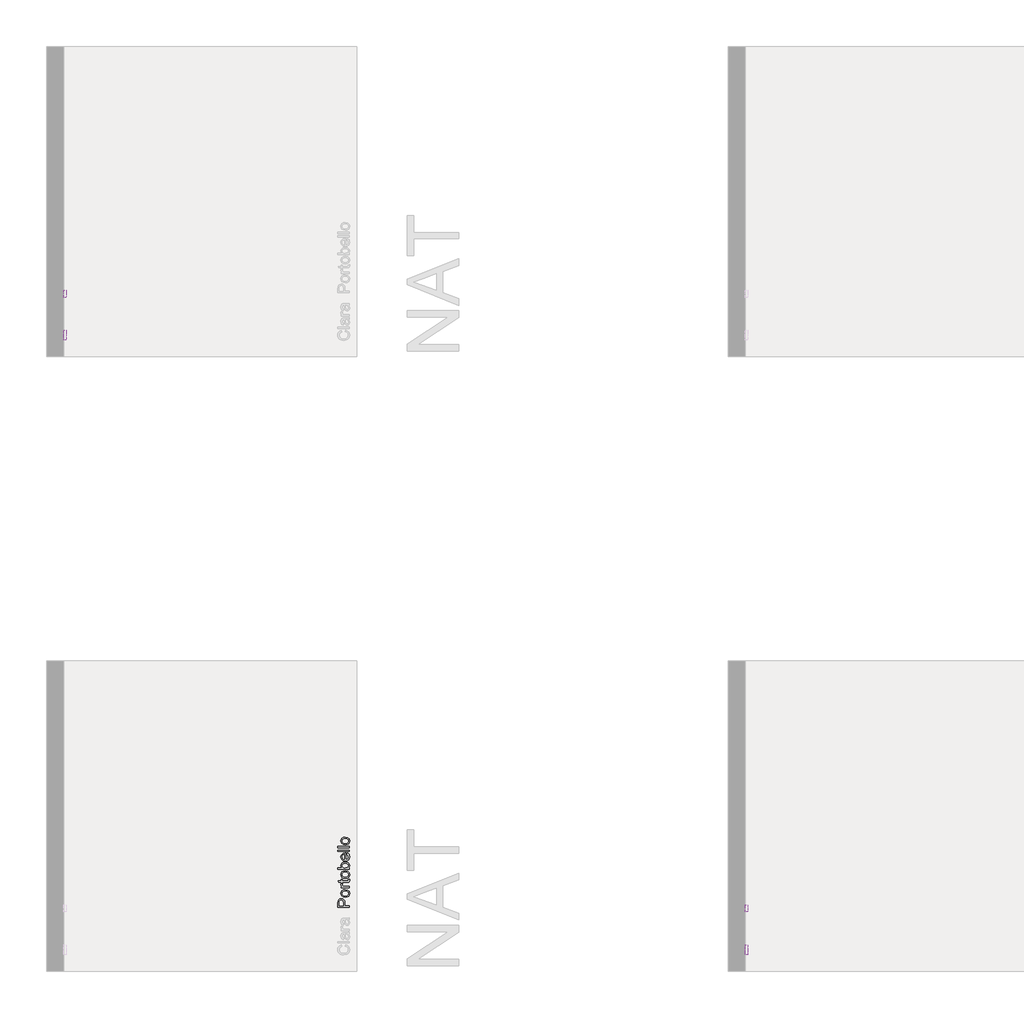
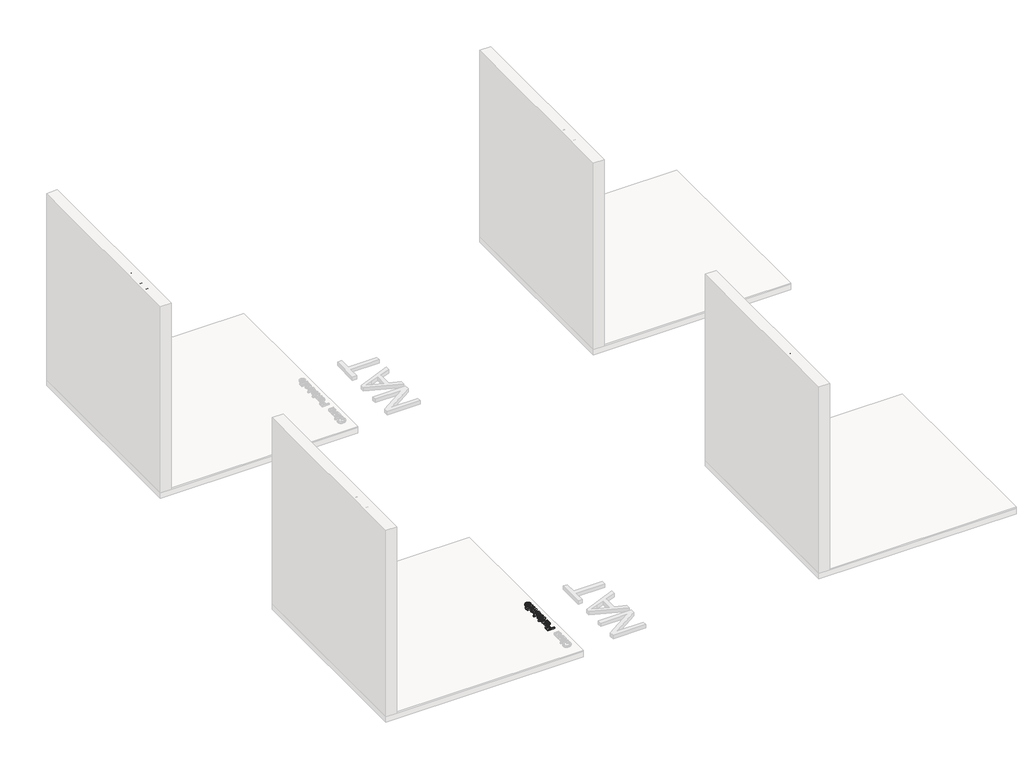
# One storey, part 3 of 6: 5 proxies.
"""IFC4 building model written with IfcOpenShell, lengths in millimetres."""

import ifcopenshell
import ifcopenshell.guid

model = None  # the IFC model being written
_history = None  # IfcOwnerHistory: only IFC2X3 demands one
_inside = {}  # id of a spatial element -> (the spatial element, [elements in it])
_under = {}  # id of a project, library or spatial element -> (it, [spatial elements below it])
_declared = {}  # id of a project -> (the project, [libraries it declares])
_typed = {}  # id of a type object -> (the type object, [elements of that type])
_made_of = {}  # id of a material, layer set ... -> (it, [elements and type objects made of it])


def new_model(schema):
    """Start an empty IFC model of exactly this schema.

    Asked for "IFC4X3", IfcOpenShell would pick the latest addendum, in which some entities
    have other attributes; the version numbers below select the first issue.
    IFC2X3 requires an IfcOwnerHistory on every rooted entity: one is made here for all.
    """
    global model, _history
    if schema == "IFC4X3":
        model = ifcopenshell.file(schema_version=(4, 3, 0, 0))
    else:
        model = ifcopenshell.file(schema=schema)
    _inside.clear()
    _under.clear()
    _declared.clear()
    _typed.clear()
    _made_of.clear()
    _history = None
    if model.schema == "IFC2X3":
        org = make("IfcOrganization", Name="unknown")
        user = make(
            "IfcPersonAndOrganization",
            ThePerson=make("IfcPerson", FamilyName="unknown"),
            TheOrganization=org,
        )
        app = make(
            "IfcApplication",
            ApplicationDeveloper=org,
            Version="unknown",
            ApplicationFullName="unknown",
            ApplicationIdentifier="unknown",
        )
        _history = make(
            "IfcOwnerHistory",
            OwningUser=user,
            OwningApplication=app,
            ChangeAction="ADDED",
            CreationDate=0,
        )
    return model


def make(cls, **values):
    """One entity of the class cls with the attributes given. An attribute that is None is left unset."""
    return model.create_entity(
        cls, **{name: value for name, value in values.items() if value is not None}
    )


def rooted(cls, **values):
    """An entity with a GlobalId (a new one), such as an element, a storey or a relation."""
    return make(cls, GlobalId=ifcopenshell.guid.new(), OwnerHistory=_history, **values)


def si_unit(unit_type, name, prefix=None):
    """IfcSIUnit, for example si_unit("LENGTHUNIT", "METRE", prefix="MILLI")."""
    return make("IfcSIUnit", UnitType=unit_type, Prefix=prefix, Name=name)


def assignment(units):
    """IfcUnitAssignment: the units of a project."""
    return None if units is None else make("IfcUnitAssignment", Units=units)


def point(xyz):
    """IfcCartesianPoint."""
    return None if xyz is None else make("IfcCartesianPoint", Coordinates=xyz)


def direction(xyz):
    """IfcDirection."""
    return None if xyz is None else make("IfcDirection", DirectionRatios=xyz)


def frame(location, z_axis=None, x_axis=None):
    """IfcAxis2Placement3D, a coordinate frame: its origin and axes. An axis left out is left unset."""
    return make(
        "IfcAxis2Placement3D",
        Location=point(location),
        Axis=direction(z_axis),
        RefDirection=direction(x_axis),
    )


def origin():
    """The frame at (0, 0, 0) with its axes left unset."""
    return frame((0.0, 0.0, 0.0))


def place(relative_to, where):
    """IfcLocalPlacement: puts the frame where relative to a parent placement (None: the world)."""
    return make(
        "IfcLocalPlacement", PlacementRelTo=relative_to, RelativePlacement=where
    )


def context(
    kind, dimensions, precision=None, world=None, true_north=None, identifier=None
):
    """IfcGeometricRepresentationContext, for example the 3D "Model" context."""
    return make(
        "IfcGeometricRepresentationContext",
        ContextIdentifier=identifier,
        ContextType=kind,
        CoordinateSpaceDimension=dimensions,
        Precision=precision,
        WorldCoordinateSystem=world,
        TrueNorth=true_north,
    )


def project(units=None, contexts=None):
    """IfcProject with its units and contexts."""
    return rooted(
        "IfcProject",
        Name="project",
        RepresentationContexts=contexts,
        UnitsInContext=assignment(units),
    )


def spatial(cls, under=None, at=None, **own):
    """A site, building, storey or space (cls), placed at a placement, below another one or the project."""
    s = rooted(cls, ObjectPlacement=at, **own)
    if under is not None:
        _under.setdefault(under.id(), (under, []))[1].append(s)
    return s


def polyline(points):
    """IfcPolyline through the points."""
    return make("IfcPolyline", Points=[point(p) for p in points])


def outline(outer, holes=None, kind="AREA"):
    """IfcArbitraryClosedProfileDef: a profile drawn as a closed curve; with holes, ...WithVoids."""
    if holes is None:
        return make("IfcArbitraryClosedProfileDef", ProfileType=kind, OuterCurve=outer)
    return make(
        "IfcArbitraryProfileDefWithVoids",
        ProfileType=kind,
        OuterCurve=outer,
        InnerCurves=holes,
    )


def extrude(swept, where, along, depth):
    """IfcExtrudedAreaSolid: the profile swept, set in the frame where, extruded along a direction by depth."""
    return make(
        "IfcExtrudedAreaSolid",
        SweptArea=swept,
        Position=where,
        ExtrudedDirection=direction(along),
        Depth=depth,
    )


def shape(context_of_items, identifier, shape_type, items):
    """IfcShapeRepresentation: the items that make up one representation, for example the "Body"."""
    return make(
        "IfcShapeRepresentation",
        ContextOfItems=context_of_items,
        RepresentationIdentifier=identifier,
        RepresentationType=shape_type,
        Items=items,
    )


def made_of(thing, what):
    """Note that an element or type object is made of a material, layer set ...; save() writes the relation."""
    if what is not None:
        _made_of.setdefault(what.id(), (what, []))[1].append(thing)
    return thing


def element(
    cls,
    number,
    at=None,
    inside=None,
    cuts=None,
    type_object=None,
    material=None,
    context=None,
    identifier="Body",
    shape_type=None,
    held_by="IfcProductDefinitionShape",
    body=None,
    shapes=None,
    **own,
):
    """One element of the class cls, such as IfcWall. Its Tag is "e" and its number.

    at: its placement. inside: the storey or other place that contains it. cuts: it is an
    opening in that element (IfcRelVoidsElement). A single representation is given by context,
    identifier, shape_type and body (its items); several are given by shapes. held_by: the class
    of the entity that holds the representations. save() writes the other relations.
    """
    e = rooted(cls, Tag="e%d" % number, ObjectPlacement=at, **own)
    if body is not None:
        shapes = [shape(context, identifier, shape_type, body)]
    if shapes is not None:
        e.Representation = make(held_by, Representations=shapes)
    if inside is not None:
        _inside.setdefault(inside.id(), (inside, []))[1].append(e)
    if cuts is not None:
        rooted(
            "IfcRelVoidsElement", RelatingBuildingElement=cuts, RelatedOpeningElement=e
        )
    if type_object is not None:
        _typed.setdefault(type_object.id(), (type_object, []))[1].append(e)
    return made_of(e, material)


def aggregate(whole, parts):
    """IfcRelAggregates: a whole, such as a stair, and the parts it consists of."""
    return rooted("IfcRelAggregates", RelatingObject=whole, RelatedObjects=parts)


def save(model, path):
    """Write the relations noted so far, then the file.

    IfcRelAggregates (storeys below a building ...), IfcRelContainedInSpatialStructure (elements
    in a storey), IfcRelDefinesByType, IfcRelAssociatesMaterial and IfcRelDeclares: one each for
    every whole, place, type object, material and project.
    """
    for whole, parts in _under.values():
        aggregate(whole, parts)
    for where, things in _inside.values():
        rooted(
            "IfcRelContainedInSpatialStructure",
            RelatedElements=things,
            RelatingStructure=where,
        )
    for kind, things in _typed.values():
        rooted("IfcRelDefinesByType", RelatedObjects=things, RelatingType=kind)
    for what, things in _made_of.values():
        rooted("IfcRelAssociatesMaterial", RelatedObjects=things, RelatingMaterial=what)
    for by, libraries in _declared.values():
        rooted("IfcRelDeclares", RelatingContext=by, RelatedDefinitions=libraries)
    model.write(path)


model = new_model("IFC4")

# Units and contexts
model_context = context("Model", 3, world=origin())
ifc_project = project(units=[si_unit("LENGTHUNIT", "METRE", prefix="MILLI")], contexts=[model_context])

# Site, building, storey
site = spatial("IfcSite", under=ifc_project)
building = spatial("IfcBuilding", under=site)
storey = spatial("IfcBuildingStorey", under=building, Name="PORTOBELLO - SHOWROOM", Elevation=0.0)

# Proxies
placement = place(None, origin())
element("IfcBuildingElementProxy", 1, Name="10mm Arial", ObjectType="10mm Arial", at=placement, inside=storey, context=model_context, shape_type="SweptSolid", body=[
    extrude(outline(polyline([(-7152.1748639, 2563.7375666), (-7139.6178251, 2560.5002051), (-7145.4119666, 2545.8676987), (-7154.5047832, 2535.1776611), (-7166.4486853, 2528.6385586), (-7180.7960831, 2526.4588578), (-7195.3611445, 2528.1081954), (-7206.9279675, 2533.0562082), (-7215.7939236, 2541.131218), (-7222.256384, 2552.1615465), (-7227.5170965, 2579.0169322), (-7226.0302401, 2593.664767), (-7221.5696709, 2606.3137762), (-7214.3683809, 2616.5623555), (-7204.6593619, 2624.0089002), (-7193.1446554, 2628.5430458), (-7180.526303, 2630.0544276), (-7166.7583193, 2628.0985217), (-7155.3754373, 2622.2308039), (-7146.7332761, 2612.8130248), (-7141.187455, 2600.2069351), (-7153.7444938, 2597.2148282), (-7164.0451896, 2612.6536093), (-7181.0168123, 2617.4973889), (-7200.6617109, 2612.1263117), (-7211.7594844, 2597.7053375), (-7214.9600577, 2579.0414576), (-7211.1708732, 2557.4099963), (-7199.3741239, 2543.589896), (-7182.0468819, 2539.0158966), (-7171.5653107, 2540.5732637), (-7162.831179, 2545.245365), (-7156.2368943, 2552.9831497), (-7152.1748639, 2563.7375666)])), frame((150642.4628922, 0.0, 0.0), z_axis=(1.0, 0.0, 0.0), x_axis=(0.0, 1.0, 0.0)), (0.0, 0.0, 1.0), 20.0),
    extrude(outline(polyline([(150662.4628922, -7111.3644879), (150662.4628922, -7123.9215267), (150642.4628922, -7123.9215267), (150642.4628922, -7111.3644879), (150662.4628922, -7111.3644879)])), frame((0.0, 0.0, 2528.0284876), z_axis=(0.0, 0.0, 1.0), x_axis=(1.0, 0.0, 0.0)), (0.0, 0.0, 1.0), 100.4563101),
    extrude(outline(polyline([(-7045.4400344, 2537.4462667), (-7057.6169284, 2528.9359299), (-7071.0691467, 2526.4588578), (-7081.5629806, 2527.9487799), (-7089.3038309, 2532.4185461), (-7094.0770998, 2539.2059689), (-7095.6681894, 2547.6488607), (-7093.2646937, 2557.5816746), (-7086.9493862, 2564.7921617), (-7078.1570065, 2568.91244), (-7067.2922249, 2570.800901), (-7045.5136108, 2575.117383), (-7045.4400344, 2577.9132862), (-7048.8981251, 2587.1839125), (-7062.7795391, 2590.8136815), (-7075.4837306, 2588.3979231), (-7081.5415208, 2579.8262726), (-7094.0985596, 2581.3959024), (-7088.6661688, 2593.6586356), (-7077.7278108, 2600.8445972), (-7061.1608583, 2603.3707203), (-7045.9428064, 2601.1389028), (-7037.3466305, 2595.5348338), (-7033.4961323, 2587.0122342), (-7032.8829956, 2576.0248253), (-7032.8829956, 2560.4021032), (-7032.2453335, 2538.5867009), (-7029.7437359, 2528.0284876), (-7042.3007747, 2528.0284876), (-7045.4400344, 2537.4462667)]), holes=[polyline([(-7045.4400344, 2562.5603443), (-7065.6980696, 2558.709846), (-7076.5015375, 2556.6742323), (-7081.394368, 2553.3632944), (-7083.1111507, 2548.5317775), (-7079.3710171, 2541.7382233), (-7068.3958709, 2539.0158966), (-7055.6916793, 2542.0202662), (-7047.5001735, 2549.292067), (-7045.5136108, 2559.0041516), (-7045.4400344, 2562.5603443)])]), frame((150642.4628922, 0.0, 0.0), z_axis=(1.0, 0.0, 0.0), x_axis=(0.0, 1.0, 0.0)), (0.0, 0.0, 1.0), 20.0),
    extrude(outline(polyline([(-7015.6170673, 2528.0284876), (-7015.6170673, 2601.8010904), (-7004.6296584, 2601.8010904), (-7004.6296584, 2590.8872579), (-6996.8305601, 2600.9426991), (-6988.9824108, 2603.3707203), (-6976.3763211, 2599.4956966), (-6980.5701759, 2588.2385075), (-6989.3993438, 2590.8136815), (-6996.4994663, 2588.3366094), (-7001.0244148, 2581.4694788), (-7003.0600285, 2566.8032499), (-7003.0600285, 2528.0284876), (-7015.6170673, 2528.0284876)])), frame((150642.4628922, 0.0, 0.0), z_axis=(1.0, 0.0, 0.0), x_axis=(0.0, 1.0, 0.0)), (0.0, 0.0, 1.0), 20.0),
    extrude(outline(polyline([(-6921.4392765, 2537.4462667), (-6933.6161706, 2528.9359299), (-6947.0683889, 2526.4588578), (-6957.5622228, 2527.9487799), (-6965.3030731, 2532.4185461), (-6970.076342, 2539.2059689), (-6971.6674316, 2547.6488607), (-6969.2639359, 2557.5816746), (-6962.9486283, 2564.7921617), (-6954.1562486, 2568.91244), (-6943.291467, 2570.800901), (-6921.5128529, 2575.117383), (-6921.4392765, 2577.9132862), (-6924.8973673, 2587.1839125), (-6938.7787812, 2590.8136815), (-6951.4829728, 2588.3979231), (-6957.540763, 2579.8262726), (-6970.0978018, 2581.3959024), (-6964.665411, 2593.6586356), (-6953.727053, 2600.8445972), (-6937.1601005, 2603.3707203), (-6921.9420486, 2601.1389028), (-6913.3458726, 2595.5348338), (-6909.4953744, 2587.0122342), (-6908.8822378, 2576.0248253), (-6908.8822378, 2560.4021032), (-6908.2445756, 2538.5867009), (-6905.7429781, 2528.0284876), (-6918.3000168, 2528.0284876), (-6921.4392765, 2537.4462667)]), holes=[polyline([(-6921.4392765, 2562.5603443), (-6941.6973117, 2558.709846), (-6952.5007797, 2556.6742323), (-6957.3936102, 2553.3632944), (-6959.1103928, 2548.5317775), (-6955.3702592, 2541.7382233), (-6944.395113, 2539.0158966), (-6931.6909215, 2542.0202662), (-6923.4994157, 2549.292067), (-6921.5128529, 2559.0041516), (-6921.4392765, 2562.5603443)])]), frame((150642.4628922, 0.0, 0.0), z_axis=(1.0, 0.0, 0.0), x_axis=(0.0, 1.0, 0.0)), (0.0, 0.0, 1.0), 20.0),
])
element("IfcBuildingElementProxy", 2, Name="10mm Arial", ObjectType="10mm Arial", at=placement, inside=storey, context=model_context, shape_type="SweptSolid", body=[
    extrude(outline(polyline([(147198.3895945, -6814.8655286), (147097.9332844, -6814.8655286), (147097.9332844, -6777.6358707), (147098.8897775, -6762.6262853), (147103.5864043, -6750.4248658), (147113.298489, -6742.5154029), (147126.995962, -6739.523296), (147138.8356309, -6741.5435813), (147148.7009997, -6747.6044372), (147155.3596638, -6758.9382683), (147157.5792185, -6776.7774794), (147157.5792185, -6802.3084899), (147198.3895945, -6802.3084899), (147198.3895945, -6814.8655286)]), holes=[polyline([(147145.0221797, -6802.3084899), (147145.0221797, -6776.0417154), (147140.4113921, -6757.5495138), (147134.8625053, -6753.4476295), (147127.4374204, -6752.0803348), (147117.0386226, -6755.3054336), (147111.3487144, -6763.7789822), (147110.4903231, -6776.336021), (147110.4903231, -6802.3084899), (147145.0221797, -6802.3084899)])]), frame((0.0, 0.0, 17.0), z_axis=(0.0, 0.0, 1.0), x_axis=(1.0, 0.0, 0.0)), (0.0, 0.0, 1.0), 20.0),
    extrude(outline(polyline([(147161.5032931, -6726.9662573), (147143.7161987, -6724.2500619), (147131.2143422, -6716.1014757), (147125.089107, -6706.0337717), (147123.0473619, -6693.979505), (147125.533631, -6680.7878698), (147132.9924385, -6670.2511163), (147144.8351731, -6663.3441319), (147160.4732235, -6661.0418037), (147182.8159234, -6665.1130311), (147195.4588013, -6676.9710941), (147199.9592243, -6693.979505), (147197.4821522, -6707.3305558), (147190.0509359, -6717.8550465), (147177.959881, -6724.6884546), (147161.5032931, -6726.9662573)]), holes=[polyline([(147161.4787677, -6714.4092185), (147172.8432556, -6712.9560846), (147180.9397252, -6708.596683), (147185.7865705, -6702.0361207), (147187.4021856, -6693.979505), (147185.7773734, -6685.9596775), (147180.902937, -6679.411378), (147172.6991685, -6675.0519764), (147161.0863602, -6673.5988425), (147150.052966, -6675.0611734), (147142.066861, -6679.4481662), (147137.2200158, -6686.0056628), (147135.6044007, -6693.979505), (147137.2138844, -6702.0361207), (147142.0423356, -6708.596683), (147150.1204111, -6712.9560846), (147161.4787677, -6714.4092185)])]), frame((0.0, 0.0, 17.0), z_axis=(0.0, 0.0, 1.0), x_axis=(1.0, 0.0, 0.0)), (0.0, 0.0, 1.0), 20.0),
    extrude(outline(polyline([(147198.3895945, -6646.9151351), (147124.6169917, -6646.9151351), (147124.6169917, -6635.9277262), (147135.5308243, -6635.9277262), (147125.4753831, -6628.1286279), (147123.0473619, -6620.2804787), (147126.9223856, -6607.674389), (147138.1795746, -6611.8682437), (147135.6044007, -6620.6974116), (147138.0814728, -6627.7975341), (147144.9486033, -6632.3224826), (147159.6148322, -6634.3580963), (147198.3895945, -6634.3580963), (147198.3895945, -6646.9151351)])), frame((0.0, 0.0, 17.0), z_axis=(0.0, 0.0, 1.0), x_axis=(1.0, 0.0, 0.0)), (0.0, 0.0, 1.0), 20.0),
    extrude(outline(polyline([(147187.9172204, -6573.1425323), (147198.7574765, -6571.5729025), (147199.9592243, -6580.9661561), (147197.8745597, -6591.4875812), (147192.4053807, -6596.736031), (147178.1560848, -6598.2566099), (147137.1740305, -6598.2566099), (147137.1740305, -6607.674389), (147126.9223856, -6607.674389), (147124.6169917, -6607.674389), (147124.6169917, -6598.2566099), (147106.6888758, -6598.2566099), (147099.3067105, -6585.6995711), (147124.6169917, -6585.6995711), (147124.6169917, -6573.1425323), (147137.1740305, -6573.1425323), (147137.1740305, -6585.6995711), (147177.7882028, -6585.6995711), (147184.2629259, -6585.0373835), (147186.556057, -6582.8914052), (147187.4021856, -6578.6117113), (147187.9172204, -6573.1425323)])), frame((0.0, 0.0, 17.0), z_axis=(0.0, 0.0, 1.0), x_axis=(1.0, 0.0, 0.0)), (0.0, 0.0, 1.0), 20.0),
    extrude(outline(polyline([(147161.5032931, -6563.7247533), (147143.7161987, -6561.0085579), (147131.2143422, -6552.8599717), (147125.089107, -6542.7922677), (147123.0473619, -6530.738001), (147125.533631, -6517.5463658), (147132.9924385, -6507.0096123), (147144.8351731, -6500.1026279), (147160.4732235, -6497.8002997), (147182.8159234, -6501.8715271), (147195.4588013, -6513.7295901), (147199.9592243, -6530.738001), (147197.4821522, -6544.0890518), (147190.0509359, -6554.6135425), (147177.959881, -6561.4469506), (147161.5032931, -6563.7247533)]), holes=[polyline([(147161.4787677, -6551.1677145), (147172.8432556, -6549.7145806), (147180.9397252, -6545.355179), (147185.7865705, -6538.7946167), (147187.4021856, -6530.738001), (147185.7773734, -6522.7181735), (147180.902937, -6516.169874), (147172.6991685, -6511.8104724), (147161.0863602, -6510.3573385), (147150.052966, -6511.8196694), (147142.066861, -6516.2066622), (147137.2200158, -6522.7641588), (147135.6044007, -6530.738001), (147137.2138844, -6538.7946167), (147142.0423356, -6545.355179), (147150.1204111, -6549.7145806), (147161.4787677, -6551.1677145)])]), frame((0.0, 0.0, 17.0), z_axis=(0.0, 0.0, 1.0), x_axis=(1.0, 0.0, 0.0)), (0.0, 0.0, 1.0), 20.0),
    extrude(outline(polyline([(147198.3895945, -6471.1165923), (147198.3895945, -6483.6736311), (147097.9332844, -6483.6736311), (147097.9332844, -6471.1165923), (147135.1874677, -6471.1165923), (147126.0823884, -6462.3242127), (147123.0473619, -6451.3981174), (147125.7819514, -6438.8165532), (147133.4706851, -6429.0554176), (147145.4268499, -6423.058941), (147160.3996471, -6420.8884373), (147177.1628034, -6423.1355831), (147189.634003, -6429.8770207), (147197.377919, -6439.7699807), (147199.9592243, -6451.4716938), (147196.6298923, -6462.6369124), (147186.6418961, -6471.1165923), (147198.3895945, -6471.1165923)]), holes=[polyline([(147160.9882583, -6471.1165923), (147178.5484922, -6467.6830271), (147185.1887622, -6461.1040707), (147187.4021856, -6452.5508143), (147185.7712421, -6445.303539), (147180.8784115, -6439.1108588), (147172.7543508, -6434.8618217), (147161.4297167, -6433.445476), (147149.9395357, -6434.8035737), (147141.9074455, -6438.8778668), (147137.1801619, -6444.877409), (147135.6044007, -6452.0112541), (147137.2353442, -6459.2585294), (147142.1281747, -6465.4512096), (147150.1050826, -6469.7002467), (147160.9882583, -6471.1165923)])]), frame((0.0, 0.0, 17.0), z_axis=(0.0, 0.0, 1.0), x_axis=(1.0, 0.0, 0.0)), (0.0, 0.0, 1.0), 20.0),
    extrude(outline(polyline([(147176.4147767, -6355.1111365), (147177.9844065, -6342.7993524), (147187.2611641, -6347.2353962), (147194.1957398, -6354.3140589), (147198.5183532, -6363.8759251), (147199.9592243, -6375.7615792), (147197.4729552, -6390.4952531), (147190.0141477, -6401.8321499), (147178.06718, -6409.0610311), (147162.1164298, -6411.4706582), (147145.629185, -6409.0365057), (147133.2990068, -6401.7340481), (147125.6102731, -6390.5504354), (147123.0473619, -6376.4728177), (147125.6041418, -6362.8335927), (147133.2744814, -6351.9350886), (147145.5801341, -6344.7889809), (147162.0428534, -6342.406945), (147165.4273677, -6342.4805214), (147165.4273677, -6398.9136194), (147174.8267527, -6396.74005), (147181.7368029, -6391.6908696), (147185.9858399, -6384.4037404), (147187.4021856, -6375.5163245), (147184.7779607, -6363.2045404), (147176.4147767, -6355.1111365)]), holes=[polyline([(147152.870329, -6398.9136194), (147152.870329, -6354.9639837), (147141.4905126, -6359.9917043), (147137.0759286, -6367.312556), (147135.6044007, -6376.5218687), (147140.3010275, -6391.9851752), (147145.7916662, -6396.8504146), (147152.870329, -6398.9136194)])]), frame((0.0, 0.0, 17.0), z_axis=(0.0, 0.0, 1.0), x_axis=(1.0, 0.0, 0.0)), (0.0, 0.0, 1.0), 20.0),
    extrude(outline(polyline([(147198.3895945, -6329.8499062), (147097.9332844, -6329.8499062), (147097.9332844, -6317.2928674), (147198.3895945, -6317.2928674), (147198.3895945, -6329.8499062)])), frame((0.0, 0.0, 17.0), z_axis=(0.0, 0.0, 1.0), x_axis=(1.0, 0.0, 0.0)), (0.0, 0.0, 1.0), 20.0),
    extrude(outline(polyline([(147198.3895945, -6298.4573093), (147097.9332844, -6298.4573093), (147097.9332844, -6285.9002705), (147198.3895945, -6285.9002705), (147198.3895945, -6298.4573093)])), frame((0.0, 0.0, 17.0), z_axis=(0.0, 0.0, 1.0), x_axis=(1.0, 0.0, 0.0)), (0.0, 0.0, 1.0), 20.0),
    extrude(outline(polyline([(147161.5032931, -6270.203972), (147143.7161987, -6267.4877766), (147131.2143422, -6259.3391905), (147125.089107, -6249.2714865), (147123.0473619, -6237.2172198), (147125.533631, -6224.0255846), (147132.9924385, -6213.4888311), (147144.8351731, -6206.5818467), (147160.4732235, -6204.2795185), (147182.8159234, -6208.3507459), (147195.4588013, -6220.2088089), (147199.9592243, -6237.2172198), (147197.4821522, -6250.5682706), (147190.0509359, -6261.0927613), (147177.959881, -6267.9261694), (147161.5032931, -6270.203972)]), holes=[polyline([(147161.4787677, -6257.6469333), (147172.8432556, -6256.1937994), (147180.9397252, -6251.8343978), (147185.7865705, -6245.2738355), (147187.4021856, -6237.2172198), (147185.7773734, -6229.1973923), (147180.902937, -6222.6490928), (147172.6991685, -6218.2896912), (147161.0863602, -6216.8365573), (147150.052966, -6218.2988882), (147142.066861, -6222.685881), (147137.2200158, -6229.2433776), (147135.6044007, -6237.2172198), (147137.2138844, -6245.2738355), (147142.0423356, -6251.8343978), (147150.1204111, -6256.1937994), (147161.4787677, -6257.6469333)])]), frame((0.0, 0.0, 17.0), z_axis=(0.0, 0.0, 1.0), x_axis=(1.0, 0.0, 0.0)), (0.0, 0.0, 1.0), 20.0),
])
element("IfcBuildingElementProxy", 3, Name="10mm Arial", ObjectType="10mm Arial", at=placement, inside=storey, context=model_context, shape_type="SweptSolid", body=[
    extrude(outline(polyline([(-1802.1748639, 2563.7375666), (-1789.6178251, 2560.5002051), (-1795.4119666, 2545.8676987), (-1804.5047832, 2535.1776611), (-1816.4486853, 2528.6385586), (-1830.7960831, 2526.4588578), (-1845.3611445, 2528.1081954), (-1856.9279675, 2533.0562082), (-1865.7939236, 2541.131218), (-1872.256384, 2552.1615465), (-1877.5170965, 2579.0169322), (-1876.0302401, 2593.664767), (-1871.5696709, 2606.3137762), (-1864.3683809, 2616.5623555), (-1854.6593619, 2624.0089002), (-1843.1446554, 2628.5430458), (-1830.526303, 2630.0544276), (-1816.7583193, 2628.0985217), (-1805.3754373, 2622.2308039), (-1796.7332761, 2612.8130248), (-1791.187455, 2600.2069351), (-1803.7444938, 2597.2148282), (-1814.0451896, 2612.6536093), (-1831.0168123, 2617.4973889), (-1850.6617109, 2612.1263117), (-1861.7594844, 2597.7053375), (-1864.9600577, 2579.0414576), (-1861.1708732, 2557.4099963), (-1849.3741239, 2543.589896), (-1832.0468819, 2539.0158966), (-1821.5653107, 2540.5732637), (-1812.831179, 2545.245365), (-1806.2368943, 2552.9831497), (-1802.1748639, 2563.7375666)])), frame((144712.4628922, 0.0, 0.0), z_axis=(1.0, 0.0, 0.0), x_axis=(0.0, 1.0, 0.0)), (0.0, 0.0, 1.0), 20.0),
    extrude(outline(polyline([(144732.4628922, -1761.3644879), (144732.4628922, -1773.9215267), (144712.4628922, -1773.9215267), (144712.4628922, -1761.3644879), (144732.4628922, -1761.3644879)])), frame((0.0, 0.0, 2528.0284876), z_axis=(0.0, 0.0, 1.0), x_axis=(1.0, 0.0, 0.0)), (0.0, 0.0, 1.0), 100.4563101),
    extrude(outline(polyline([(-1695.4400344, 2537.4462667), (-1707.6169284, 2528.9359299), (-1721.0691467, 2526.4588578), (-1731.5629806, 2527.9487799), (-1739.3038309, 2532.4185461), (-1744.0770998, 2539.2059689), (-1745.6681894, 2547.6488607), (-1743.2646937, 2557.5816746), (-1736.9493862, 2564.7921617), (-1728.1570065, 2568.91244), (-1717.2922249, 2570.800901), (-1695.5136108, 2575.117383), (-1695.4400344, 2577.9132862), (-1698.8981251, 2587.1839125), (-1712.7795391, 2590.8136815), (-1725.4837306, 2588.3979231), (-1731.5415208, 2579.8262726), (-1744.0985596, 2581.3959024), (-1738.6661688, 2593.6586356), (-1727.7278108, 2600.8445972), (-1711.1608583, 2603.3707203), (-1695.9428064, 2601.1389028), (-1687.3466305, 2595.5348338), (-1683.4961323, 2587.0122342), (-1682.8829956, 2576.0248253), (-1682.8829956, 2560.4021032), (-1682.2453335, 2538.5867009), (-1679.7437359, 2528.0284876), (-1692.3007747, 2528.0284876), (-1695.4400344, 2537.4462667)]), holes=[polyline([(-1695.4400344, 2562.5603443), (-1715.6980696, 2558.709846), (-1726.5015375, 2556.6742323), (-1731.394368, 2553.3632944), (-1733.1111507, 2548.5317775), (-1729.3710171, 2541.7382233), (-1718.3958709, 2539.0158966), (-1705.6916793, 2542.0202662), (-1697.5001735, 2549.292067), (-1695.5136108, 2559.0041516), (-1695.4400344, 2562.5603443)])]), frame((144712.4628922, 0.0, 0.0), z_axis=(1.0, 0.0, 0.0), x_axis=(0.0, 1.0, 0.0)), (0.0, 0.0, 1.0), 20.0),
    extrude(outline(polyline([(-1665.6170673, 2528.0284876), (-1665.6170673, 2601.8010904), (-1654.6296584, 2601.8010904), (-1654.6296584, 2590.8872579), (-1646.8305601, 2600.9426991), (-1638.9824108, 2603.3707203), (-1626.3763211, 2599.4956966), (-1630.5701759, 2588.2385075), (-1639.3993438, 2590.8136815), (-1646.4994663, 2588.3366094), (-1651.0244148, 2581.4694788), (-1653.0600285, 2566.8032499), (-1653.0600285, 2528.0284876), (-1665.6170673, 2528.0284876)])), frame((144712.4628922, 0.0, 0.0), z_axis=(1.0, 0.0, 0.0), x_axis=(0.0, 1.0, 0.0)), (0.0, 0.0, 1.0), 20.0),
    extrude(outline(polyline([(-1571.4392765, 2537.4462667), (-1583.6161706, 2528.9359299), (-1597.0683889, 2526.4588578), (-1607.5622228, 2527.9487799), (-1615.3030731, 2532.4185461), (-1620.076342, 2539.2059689), (-1621.6674316, 2547.6488607), (-1619.2639359, 2557.5816746), (-1612.9486283, 2564.7921617), (-1604.1562486, 2568.91244), (-1593.291467, 2570.800901), (-1571.5128529, 2575.117383), (-1571.4392765, 2577.9132862), (-1574.8973673, 2587.1839125), (-1588.7787812, 2590.8136815), (-1601.4829728, 2588.3979231), (-1607.540763, 2579.8262726), (-1620.0978018, 2581.3959024), (-1614.665411, 2593.6586356), (-1603.727053, 2600.8445972), (-1587.1601005, 2603.3707203), (-1571.9420486, 2601.1389028), (-1563.3458726, 2595.5348338), (-1559.4953744, 2587.0122342), (-1558.8822378, 2576.0248253), (-1558.8822378, 2560.4021032), (-1558.2445756, 2538.5867009), (-1555.7429781, 2528.0284876), (-1568.3000168, 2528.0284876), (-1571.4392765, 2537.4462667)]), holes=[polyline([(-1571.4392765, 2562.5603443), (-1591.6973117, 2558.709846), (-1602.5007797, 2556.6742323), (-1607.3936102, 2553.3632944), (-1609.1103928, 2548.5317775), (-1605.3702592, 2541.7382233), (-1594.395113, 2539.0158966), (-1581.6909215, 2542.0202662), (-1573.4994157, 2549.292067), (-1571.5128529, 2559.0041516), (-1571.4392765, 2562.5603443)])]), frame((144712.4628922, 0.0, 0.0), z_axis=(1.0, 0.0, 0.0), x_axis=(0.0, 1.0, 0.0)), (0.0, 0.0, 1.0), 20.0),
])
element("IfcBuildingElementProxy", 4, Name="10mm Arial Narrow", ObjectType="10mm Arial Narrow", at=placement, inside=storey, context=model_context, shape_type="SweptSolid", body=[
    extrude(outline(polyline([(-6855.6731479, 2528.0284876), (-6855.6731479, 2628.7470914), (-6824.3762632, 2628.7470914), (-6808.0805617, 2626.8687707), (-6796.6075755, 2617.3883275), (-6792.3178971, 2600.3692187), (-6794.1042055, 2588.2933931), (-6799.4631307, 2578.6669994), (-6809.2069195, 2572.365741), (-6824.1478188, 2570.2653215), (-6845.9261862, 2570.2653215), (-6845.9261862, 2528.0284876), (-6855.6731479, 2528.0284876)]), holes=[polyline([(-6845.9261862, 2581.6367767), (-6822.9548313, 2581.6367767), (-6807.0906359, 2586.1675909), (-6802.0648588, 2599.8361817), (-6804.5396732, 2610.0019581), (-6810.5173021, 2615.801908), (-6823.1832757, 2617.3756361), (-6845.9261862, 2617.3756361), (-6845.9261862, 2581.6367767)])]), frame((150642.4628922, 0.0, 0.0), z_axis=(1.0, 0.0, 0.0), x_axis=(0.0, 1.0, 0.0)), (0.0, 0.0, 1.0), 20.0),
    extrude(outline(polyline([(-6784.1954291, 2564.5795938), (-6782.2409602, 2581.1703694), (-6776.3775536, 2593.1224542), (-6767.5189869, 2600.3470088), (-6756.5790377, 2602.7551937), (-6745.7660021, 2600.3470088), (-6736.8820527, 2593.1224542), (-6730.9424979, 2581.3607397), (-6728.9626464, 2565.3410752), (-6730.9075967, 2548.1791886), (-6736.7424478, 2536.0367335), (-6745.591496, 2528.8121789), (-6756.5790377, 2526.403994), (-6767.4396659, 2528.8185246), (-6776.3140968, 2536.0621162), (-6782.225096, 2548.0205467), (-6784.1954291, 2564.5795938)]), holes=[polyline([(-6774.4484674, 2564.6049766), (-6773.1444306, 2552.0532252), (-6769.23232, 2543.1819671), (-6763.3911232, 2537.9087085), (-6756.2998279, 2536.1509557), (-6749.5797547, 2537.9245727), (-6743.8876814, 2543.2454239), (-6740.0041264, 2552.1325461), (-6738.709608, 2564.6049766), (-6740.0136449, 2577.1186539), (-6743.9257555, 2585.9772206), (-6749.7669522, 2591.2504792), (-6756.8582476, 2593.008232), (-6763.6259133, 2591.2409606), (-6769.3084681, 2585.9391465), (-6773.1634676, 2577.0710613), (-6774.4484674, 2564.6049766)])]), frame((150642.4628922, 0.0, 0.0), z_axis=(1.0, 0.0, 0.0), x_axis=(0.0, 1.0, 0.0)), (0.0, 0.0, 1.0), 20.0),
    extrude(outline(polyline([(-6657.4849276, 2536.1509557), (-6655.860434, 2526.403994), (-6663.2214206, 2526.403994), (-6671.4961849, 2528.5234505), (-6675.8112461, 2534.3234004), (-6676.9788509, 2548.9692256), (-6676.9788509, 2591.3837384), (-6685.1013189, 2591.3837384), (-6685.1013189, 2594.6327256), (-6686.7258125, 2589.7592448), (-6694.2898609, 2591.3837384), (-6700.3690206, 2589.0612202), (-6704.2398843, 2582.5759371), (-6706.2197358, 2567.1686305), (-6706.2197358, 2528.0284876), (-6715.9666975, 2528.0284876), (-6715.9666975, 2601.1307001), (-6706.2197358, 2601.1307001), (-6706.2197358, 2591.4345038), (-6699.9755885, 2600.5215149), (-6693.5791449, 2602.7551937), (-6685.1013189, 2601.1307001), (-6676.9788509, 2601.1307001), (-6676.9788509, 2617.3756361), (-6667.2318892, 2625.4981042), (-6667.2318892, 2601.1307001), (-6657.4849276, 2601.1307001), (-6657.4849276, 2591.3837384), (-6667.2318892, 2591.3837384), (-6667.2318892, 2546.7355469), (-6666.368877, 2538.7399924), (-6661.7492233, 2536.1509557), (-6657.4849276, 2536.1509557)])), frame((150642.4628922, 0.0, 0.0), z_axis=(1.0, 0.0, 0.0), x_axis=(0.0, 1.0, 0.0)), (0.0, 0.0, 1.0), 20.0),
    extrude(outline(polyline([(-6650.9869531, 2564.5795938), (-6649.0324843, 2581.1703694), (-6643.1690776, 2593.1224542), (-6634.3105109, 2600.3470088), (-6623.3705618, 2602.7551937), (-6612.5575262, 2600.3470088), (-6603.6735768, 2593.1224542), (-6597.734022, 2581.3607397), (-6595.7541704, 2565.3410752), (-6597.6991208, 2548.1791886), (-6603.5339719, 2536.0367335), (-6612.38302, 2528.8121789), (-6623.3705618, 2526.403994), (-6634.23119, 2528.8185246), (-6643.1056209, 2536.0621162), (-6649.0166201, 2548.0205467), (-6650.9869531, 2564.5795938)]), holes=[polyline([(-6641.2399915, 2564.6049766), (-6639.9359546, 2552.0532252), (-6636.023844, 2543.1819671), (-6630.1826473, 2537.9087085), (-6623.0913519, 2536.1509557), (-6616.3712788, 2537.9245727), (-6610.6792055, 2543.2454239), (-6606.7956504, 2552.1325461), (-6605.5011321, 2564.6049766), (-6606.8051689, 2577.1186539), (-6610.7172795, 2585.9772206), (-6616.5584763, 2591.2504792), (-6623.6497716, 2593.008232), (-6630.4174374, 2591.2409606), (-6636.0999922, 2585.9391465), (-6639.9549917, 2577.0710613), (-6641.2399915, 2564.6049766)])]), frame((150642.4628922, 0.0, 0.0), z_axis=(1.0, 0.0, 0.0), x_axis=(0.0, 1.0, 0.0)), (0.0, 0.0, 1.0), 20.0),
    extrude(outline(polyline([(-6573.0112599, 2528.0284876), (-6582.7582216, 2528.0284876), (-6582.7582216, 2628.7470914), (-6573.0112599, 2628.7470914), (-6573.0112599, 2593.3382073), (-6565.6121992, 2600.4199841), (-6556.4109658, 2602.7551937), (-6543.5292392, 2598.5543547), (-6534.2518577, 2585.8249243), (-6530.7744261, 2565.1380135), (-6532.7066851, 2548.6836701), (-6538.5034621, 2536.480931), (-6546.8765844, 2528.9232283), (-6556.5378794, 2526.403994), (-6565.8787177, 2529.0184134), (-6573.0112599, 2536.7855235), (-6573.0112599, 2528.0284876)]), holes=[polyline([(-6573.0112599, 2565.1380135), (-6570.9298775, 2547.8904603), (-6565.0410881, 2539.1588071), (-6556.5886448, 2536.1509557), (-6550.6459172, 2537.9404369), (-6545.4075599, 2543.3088807), (-6540.5213877, 2564.7318901), (-6545.2298809, 2586.1675909), (-6550.4745839, 2591.2980717), (-6556.7917065, 2593.008232), (-6562.7693354, 2591.2187508), (-6568.0616309, 2585.850307), (-6573.0112599, 2565.1380135)])]), frame((150642.4628922, 0.0, 0.0), z_axis=(1.0, 0.0, 0.0), x_axis=(0.0, 1.0, 0.0)), (0.0, 0.0, 1.0), 20.0),
    extrude(outline(polyline([(-6478.7906306, 2550.7713982), (-6469.0436689, 2549.1469046), (-6472.7431993, 2539.260338), (-6478.5621862, 2532.1404871), (-6486.2658395, 2527.8381173), (-6495.6193691, 2526.403994), (-6507.2129231, 2528.8185246), (-6516.3570453, 2536.0621162), (-6522.2966001, 2547.8682504), (-6524.2764516, 2563.9704087), (-6522.2870815, 2580.6373324), (-6516.3189712, 2592.8178617), (-6507.3049354, 2600.2708607), (-6496.1777887, 2602.7551937), (-6485.4948396, 2600.3565273), (-6476.7473222, 2593.1605283), (-6470.9124712, 2581.4210237), (-6468.9675208, 2565.3918407), (-6469.0436689, 2562.1428534), (-6514.52949, 2562.1428534), (-6508.5264784, 2542.6996956), (-6502.5964422, 2537.7881407), (-6495.4924555, 2536.1509557), (-6485.3139877, 2539.8060663), (-6478.7906306, 2550.7713982)]), holes=[polyline([(-6513.8695395, 2571.8898151), (-6478.7906306, 2571.8898151), (-6483.0549263, 2586.1548996), (-6488.8802589, 2591.2948989), (-6496.1016406, 2593.008232), (-6508.3107254, 2587.2971217), (-6513.8695395, 2571.8898151)])]), frame((150642.4628922, 0.0, 0.0), z_axis=(1.0, 0.0, 0.0), x_axis=(0.0, 1.0, 0.0)), (0.0, 0.0, 1.0), 20.0),
    extrude(outline(polyline([(150662.4628922, -6446.3007584), (150662.4628922, -6456.0477201), (150642.4628922, -6456.0477201), (150642.4628922, -6446.3007584), (150662.4628922, -6446.3007584)])), frame((0.0, 0.0, 2528.0284876), z_axis=(0.0, 0.0, 1.0), x_axis=(1.0, 0.0, 0.0)), (0.0, 0.0, 1.0), 100.7186038),
    extrude(outline(polyline([(150662.4628922, -6420.3088607), (150662.4628922, -6430.0558223), (150642.4628922, -6430.0558223), (150642.4628922, -6420.3088607), (150662.4628922, -6420.3088607)])), frame((0.0, 0.0, 2528.0284876), z_axis=(0.0, 0.0, 1.0), x_axis=(1.0, 0.0, 0.0)), (0.0, 0.0, 1.0), 100.7186038),
    extrude(outline(polyline([(-6408.9374054, 2564.5795938), (-6406.9829365, 2581.1703694), (-6401.1195299, 2593.1224542), (-6392.2609632, 2600.3470088), (-6381.3210141, 2602.7551937), (-6370.5079785, 2600.3470088), (-6361.624029, 2593.1224542), (-6355.6844743, 2581.3607397), (-6353.7046227, 2565.3410752), (-6355.6495731, 2548.1791886), (-6361.4844241, 2536.0367335), (-6370.3334723, 2528.8121789), (-6381.3210141, 2526.403994), (-6392.1816422, 2528.8185246), (-6401.0560731, 2536.0621162), (-6406.9670723, 2548.0205467), (-6408.9374054, 2564.5795938)]), holes=[polyline([(-6399.1904438, 2564.6049766), (-6397.8864069, 2552.0532252), (-6393.9742963, 2543.1819671), (-6388.1330996, 2537.9087085), (-6381.0418042, 2536.1509557), (-6374.321731, 2537.9245727), (-6368.6296577, 2543.2454239), (-6364.7461027, 2552.1325461), (-6363.4515844, 2564.6049766), (-6364.7556212, 2577.1186539), (-6368.6677318, 2585.9772206), (-6374.5089285, 2591.2504792), (-6381.6002239, 2593.008232), (-6388.3678897, 2591.2409606), (-6394.0504444, 2585.9391465), (-6397.9054439, 2577.0710613), (-6399.1904438, 2564.6049766)])]), frame((150642.4628922, 0.0, 0.0), z_axis=(1.0, 0.0, 0.0), x_axis=(0.0, 1.0, 0.0)), (0.0, 0.0, 1.0), 20.0),
])
element("IfcBuildingElementProxy", 5, Name="10mm Arial Narrow", ObjectType="10mm Arial Narrow", at=placement, inside=storey, context=model_context, shape_type="SweptSolid", body=[
    extrude(outline(polyline([(-1505.6731479, 2528.0284876), (-1505.6731479, 2628.7470914), (-1474.3762632, 2628.7470914), (-1458.0805617, 2626.8687707), (-1446.6075755, 2617.3883275), (-1442.3178971, 2600.3692187), (-1444.1042055, 2588.2933931), (-1449.4631307, 2578.6669994), (-1459.2069195, 2572.365741), (-1474.1478188, 2570.2653215), (-1495.9261862, 2570.2653215), (-1495.9261862, 2528.0284876), (-1505.6731479, 2528.0284876)]), holes=[polyline([(-1495.9261862, 2581.6367767), (-1472.9548313, 2581.6367767), (-1457.0906359, 2586.1675909), (-1452.0648588, 2599.8361817), (-1454.5396732, 2610.0019581), (-1460.5173021, 2615.801908), (-1473.1832757, 2617.3756361), (-1495.9261862, 2617.3756361), (-1495.9261862, 2581.6367767)])]), frame((144712.4628922, 0.0, 0.0), z_axis=(1.0, 0.0, 0.0), x_axis=(0.0, 1.0, 0.0)), (0.0, 0.0, 1.0), 20.0),
    extrude(outline(polyline([(-1434.1954291, 2564.5795938), (-1432.2409602, 2581.1703694), (-1426.3775536, 2593.1224542), (-1417.5189869, 2600.3470088), (-1406.5790377, 2602.7551937), (-1395.7660021, 2600.3470088), (-1386.8820527, 2593.1224542), (-1380.9424979, 2581.3607397), (-1378.9626464, 2565.3410752), (-1380.9075967, 2548.1791886), (-1386.7424478, 2536.0367335), (-1395.591496, 2528.8121789), (-1406.5790377, 2526.403994), (-1417.4396659, 2528.8185246), (-1426.3140968, 2536.0621162), (-1432.225096, 2548.0205467), (-1434.1954291, 2564.5795938)]), holes=[polyline([(-1424.4484674, 2564.6049766), (-1423.1444306, 2552.0532252), (-1419.23232, 2543.1819671), (-1413.3911232, 2537.9087085), (-1406.2998279, 2536.1509557), (-1399.5797547, 2537.9245727), (-1393.8876814, 2543.2454239), (-1390.0041264, 2552.1325461), (-1388.709608, 2564.6049766), (-1390.0136449, 2577.1186539), (-1393.9257555, 2585.9772206), (-1399.7669522, 2591.2504792), (-1406.8582476, 2593.008232), (-1413.6259133, 2591.2409606), (-1419.3084681, 2585.9391465), (-1423.1634676, 2577.0710613), (-1424.4484674, 2564.6049766)])]), frame((144712.4628922, 0.0, 0.0), z_axis=(1.0, 0.0, 0.0), x_axis=(0.0, 1.0, 0.0)), (0.0, 0.0, 1.0), 20.0),
    extrude(outline(polyline([(-1307.4849276, 2536.1509557), (-1305.860434, 2526.403994), (-1313.2214206, 2526.403994), (-1321.4961849, 2528.5234505), (-1325.8112461, 2534.3234004), (-1326.9788509, 2548.9692256), (-1326.9788509, 2591.3837384), (-1335.1013189, 2591.3837384), (-1335.1013189, 2594.6327256), (-1336.7258125, 2589.7592448), (-1344.2898609, 2591.3837384), (-1350.3690206, 2589.0612202), (-1354.2398843, 2582.5759371), (-1356.2197358, 2567.1686305), (-1356.2197358, 2528.0284876), (-1365.9666975, 2528.0284876), (-1365.9666975, 2601.1307001), (-1356.2197358, 2601.1307001), (-1356.2197358, 2591.4345038), (-1349.9755885, 2600.5215149), (-1343.5791449, 2602.7551937), (-1335.1013189, 2601.1307001), (-1326.9788509, 2601.1307001), (-1326.9788509, 2617.3756361), (-1317.2318892, 2625.4981042), (-1317.2318892, 2601.1307001), (-1307.4849276, 2601.1307001), (-1307.4849276, 2591.3837384), (-1317.2318892, 2591.3837384), (-1317.2318892, 2546.7355469), (-1316.368877, 2538.7399924), (-1311.7492233, 2536.1509557), (-1307.4849276, 2536.1509557)])), frame((144712.4628922, 0.0, 0.0), z_axis=(1.0, 0.0, 0.0), x_axis=(0.0, 1.0, 0.0)), (0.0, 0.0, 1.0), 20.0),
    extrude(outline(polyline([(-1300.9869531, 2564.5795938), (-1299.0324843, 2581.1703694), (-1293.1690776, 2593.1224542), (-1284.3105109, 2600.3470088), (-1273.3705618, 2602.7551937), (-1262.5575262, 2600.3470088), (-1253.6735768, 2593.1224542), (-1247.734022, 2581.3607397), (-1245.7541704, 2565.3410752), (-1247.6991208, 2548.1791886), (-1253.5339719, 2536.0367335), (-1262.38302, 2528.8121789), (-1273.3705618, 2526.403994), (-1284.23119, 2528.8185246), (-1293.1056209, 2536.0621162), (-1299.0166201, 2548.0205467), (-1300.9869531, 2564.5795938)]), holes=[polyline([(-1291.2399915, 2564.6049766), (-1289.9359546, 2552.0532252), (-1286.023844, 2543.1819671), (-1280.1826473, 2537.9087085), (-1273.0913519, 2536.1509557), (-1266.3712788, 2537.9245727), (-1260.6792055, 2543.2454239), (-1256.7956504, 2552.1325461), (-1255.5011321, 2564.6049766), (-1256.8051689, 2577.1186539), (-1260.7172795, 2585.9772206), (-1266.5584763, 2591.2504792), (-1273.6497716, 2593.008232), (-1280.4174374, 2591.2409606), (-1286.0999922, 2585.9391465), (-1289.9549917, 2577.0710613), (-1291.2399915, 2564.6049766)])]), frame((144712.4628922, 0.0, 0.0), z_axis=(1.0, 0.0, 0.0), x_axis=(0.0, 1.0, 0.0)), (0.0, 0.0, 1.0), 20.0),
    extrude(outline(polyline([(-1223.0112599, 2528.0284876), (-1232.7582216, 2528.0284876), (-1232.7582216, 2628.7470914), (-1223.0112599, 2628.7470914), (-1223.0112599, 2593.3382073), (-1215.6121992, 2600.4199841), (-1206.4109658, 2602.7551937), (-1193.5292392, 2598.5543547), (-1184.2518577, 2585.8249243), (-1180.7744261, 2565.1380135), (-1182.7066851, 2548.6836701), (-1188.5034621, 2536.480931), (-1196.8765844, 2528.9232283), (-1206.5378794, 2526.403994), (-1215.8787177, 2529.0184134), (-1223.0112599, 2536.7855235), (-1223.0112599, 2528.0284876)]), holes=[polyline([(-1223.0112599, 2565.1380135), (-1220.9298775, 2547.8904603), (-1215.0410881, 2539.1588071), (-1206.5886448, 2536.1509557), (-1200.6459172, 2537.9404369), (-1195.4075599, 2543.3088807), (-1190.5213877, 2564.7318901), (-1195.2298809, 2586.1675909), (-1200.4745839, 2591.2980717), (-1206.7917065, 2593.008232), (-1212.7693354, 2591.2187508), (-1218.0616309, 2585.850307), (-1223.0112599, 2565.1380135)])]), frame((144712.4628922, 0.0, 0.0), z_axis=(1.0, 0.0, 0.0), x_axis=(0.0, 1.0, 0.0)), (0.0, 0.0, 1.0), 20.0),
    extrude(outline(polyline([(-1128.7906306, 2550.7713982), (-1119.0436689, 2549.1469046), (-1122.7431993, 2539.260338), (-1128.5621862, 2532.1404871), (-1136.2658395, 2527.8381173), (-1145.6193691, 2526.403994), (-1157.2129231, 2528.8185246), (-1166.3570453, 2536.0621162), (-1172.2966001, 2547.8682504), (-1174.2764516, 2563.9704087), (-1172.2870815, 2580.6373324), (-1166.3189712, 2592.8178617), (-1157.3049354, 2600.2708607), (-1146.1777887, 2602.7551937), (-1135.4948396, 2600.3565273), (-1126.7473222, 2593.1605283), (-1120.9124712, 2581.4210237), (-1118.9675208, 2565.3918407), (-1119.0436689, 2562.1428534), (-1164.52949, 2562.1428534), (-1158.5264784, 2542.6996956), (-1152.5964422, 2537.7881407), (-1145.4924555, 2536.1509557), (-1135.3139877, 2539.8060663), (-1128.7906306, 2550.7713982)]), holes=[polyline([(-1163.8695395, 2571.8898151), (-1128.7906306, 2571.8898151), (-1133.0549263, 2586.1548996), (-1138.8802589, 2591.2948989), (-1146.1016406, 2593.008232), (-1158.3107254, 2587.2971217), (-1163.8695395, 2571.8898151)])]), frame((144712.4628922, 0.0, 0.0), z_axis=(1.0, 0.0, 0.0), x_axis=(0.0, 1.0, 0.0)), (0.0, 0.0, 1.0), 20.0),
    extrude(outline(polyline([(144732.4628922, -1096.3007584), (144732.4628922, -1106.0477201), (144712.4628922, -1106.0477201), (144712.4628922, -1096.3007584), (144732.4628922, -1096.3007584)])), frame((0.0, 0.0, 2528.0284876), z_axis=(0.0, 0.0, 1.0), x_axis=(1.0, 0.0, 0.0)), (0.0, 0.0, 1.0), 100.7186038),
    extrude(outline(polyline([(144732.4628922, -1070.3088607), (144732.4628922, -1080.0558223), (144712.4628922, -1080.0558223), (144712.4628922, -1070.3088607), (144732.4628922, -1070.3088607)])), frame((0.0, 0.0, 2528.0284876), z_axis=(0.0, 0.0, 1.0), x_axis=(1.0, 0.0, 0.0)), (0.0, 0.0, 1.0), 100.7186038),
    extrude(outline(polyline([(-1058.9374054, 2564.5795938), (-1056.9829365, 2581.1703694), (-1051.1195299, 2593.1224542), (-1042.2609632, 2600.3470088), (-1031.3210141, 2602.7551937), (-1020.5079785, 2600.3470088), (-1011.624029, 2593.1224542), (-1005.6844743, 2581.3607397), (-1003.7046227, 2565.3410752), (-1005.6495731, 2548.1791886), (-1011.4844241, 2536.0367335), (-1020.3334723, 2528.8121789), (-1031.3210141, 2526.403994), (-1042.1816422, 2528.8185246), (-1051.0560731, 2536.0621162), (-1056.9670723, 2548.0205467), (-1058.9374054, 2564.5795938)]), holes=[polyline([(-1049.1904438, 2564.6049766), (-1047.8864069, 2552.0532252), (-1043.9742963, 2543.1819671), (-1038.1330996, 2537.9087085), (-1031.0418042, 2536.1509557), (-1024.321731, 2537.9245727), (-1018.6296577, 2543.2454239), (-1014.7461027, 2552.1325461), (-1013.4515844, 2564.6049766), (-1014.7556212, 2577.1186539), (-1018.6677318, 2585.9772206), (-1024.5089285, 2591.2504792), (-1031.6002239, 2593.008232), (-1038.3678897, 2591.2409606), (-1044.0504444, 2585.9391465), (-1047.9054439, 2577.0710613), (-1049.1904438, 2564.6049766)])]), frame((144712.4628922, 0.0, 0.0), z_axis=(1.0, 0.0, 0.0), x_axis=(0.0, 1.0, 0.0)), (0.0, 0.0, 1.0), 20.0),
])

save(model, "model.ifc")
